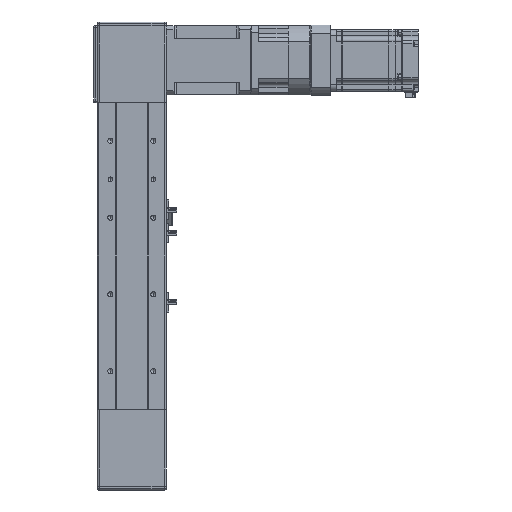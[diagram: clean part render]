
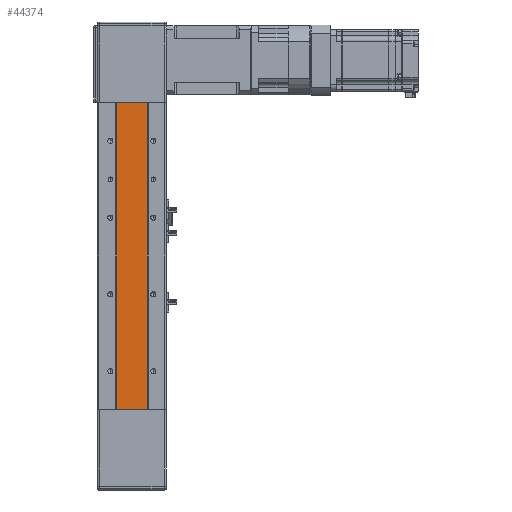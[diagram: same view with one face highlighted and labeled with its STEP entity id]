
A CAD part, front view. The second image highlights one B-rep face of the part: STEP entity #44374.
In plain terms, the highlighted planar face has unit normal (0, -1, 0).
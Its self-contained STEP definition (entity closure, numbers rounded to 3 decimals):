
#4816 = CARTESIAN_POINT ( 'NONE',  ( -20.5, -60.599, 200. ) ) ;
#4831 = DIRECTION ( 'NONE',  ( 0., 0., -1. ) ) ;
#4903 = CARTESIAN_POINT ( 'NONE',  ( 0., -60.599, -200. ) ) ;
#4921 = DIRECTION ( 'NONE',  ( 1., 0., 0. ) ) ;
#4934 = DIRECTION ( 'NONE',  ( 1., 0., 0. ) ) ;
#4952 = CARTESIAN_POINT ( 'NONE',  ( 0., -60.599, 200. ) ) ;
#4991 = DIRECTION ( 'NONE',  ( 0., 0., -1. ) ) ;
#5010 = CARTESIAN_POINT ( 'NONE',  ( 20.5, -60.599, 200. ) ) ;
#14928 = CARTESIAN_POINT ( 'NONE',  ( -20.5, -60.599, 200. ) ) ;
#14961 = CARTESIAN_POINT ( 'NONE',  ( 20.5, -60.599, 200. ) ) ;
#14997 = CARTESIAN_POINT ( 'NONE',  ( 20.5, -60.599, -200. ) ) ;
#15023 = CARTESIAN_POINT ( 'NONE',  ( -20.5, -60.599, -200. ) ) ;
#25409 = FACE_OUTER_BOUND ( 'NONE', #55522, .T. ) ;
#36875 = VERTEX_POINT ( 'NONE', #14928 ) ;
#37270 = VERTEX_POINT ( 'NONE', #14961 ) ;
#37351 = VERTEX_POINT ( 'NONE', #14997 ) ;
#37387 = VERTEX_POINT ( 'NONE', #15023 ) ;
#38555 = LINE ( 'NONE', #4952, #38580 ) ;
#38580 = VECTOR ( 'NONE', #4934, 1000. ) ;
#38588 = LINE ( 'NONE', #5010, #38593 ) ;
#38593 = VECTOR ( 'NONE', #4991, 1000. ) ;
#39575 = LINE ( 'NONE', #4816, #39592 ) ;
#39592 = VECTOR ( 'NONE', #4831, 1000. ) ;
#39633 = VECTOR ( 'NONE', #4921, 1000. ) ;
#39653 = LINE ( 'NONE', #4903, #39633 ) ;
#44374 = ADVANCED_FACE ( 'NONE', ( #25409 ), #68324, .F. ) ;
#45128 = EDGE_CURVE ( 'NONE', #36875, #37387, #39575, .T. ) ;
#45159 = EDGE_CURVE ( 'NONE', #37387, #37351, #39653, .T. ) ;
#45180 = EDGE_CURVE ( 'NONE', #36875, #37270, #38555, .T. ) ;
#45198 = EDGE_CURVE ( 'NONE', #37270, #37351, #38588, .T. ) ;
#55522 = EDGE_LOOP ( 'NONE', ( #67322, #67351, #67363, #66549 ) ) ;
#58448 = AXIS2_PLACEMENT_3D ( 'NONE', #68326, #68258, #68284 ) ;
#66549 = ORIENTED_EDGE ( 'NONE', *, *, #45128, .T. ) ;
#67322 = ORIENTED_EDGE ( 'NONE', *, *, #45159, .T. ) ;
#67351 = ORIENTED_EDGE ( 'NONE', *, *, #45198, .F. ) ;
#67363 = ORIENTED_EDGE ( 'NONE', *, *, #45180, .F. ) ;
#68258 = DIRECTION ( 'NONE',  ( 0., 1., 0. ) ) ;
#68284 = DIRECTION ( 'NONE',  ( 0., 0., 1. ) ) ;
#68324 = PLANE ( 'NONE',  #58448 ) ;
#68326 = CARTESIAN_POINT ( 'NONE',  ( 0., -60.599, 200. ) ) ;
